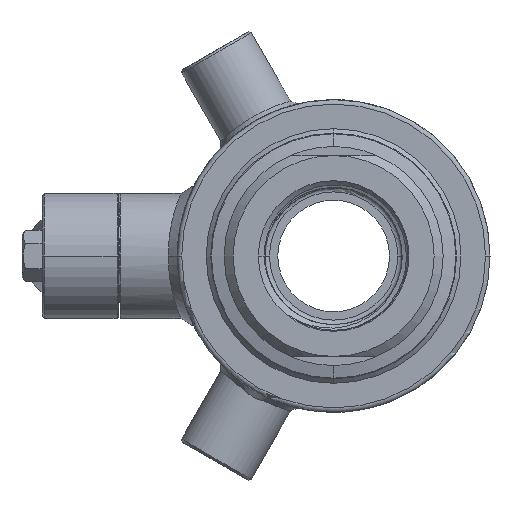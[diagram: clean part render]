
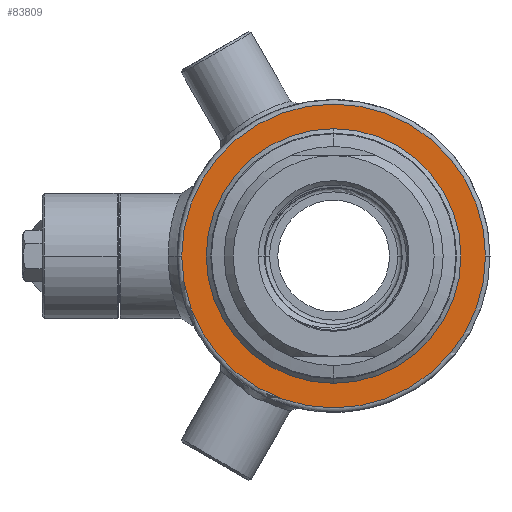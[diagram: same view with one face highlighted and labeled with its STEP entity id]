
A CAD part, left-side view. The second image highlights one B-rep face of the part: STEP entity #83809.
In plain terms, the highlighted planar face has unit normal (-1, 0, 0).
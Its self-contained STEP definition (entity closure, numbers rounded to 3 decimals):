
#36296=CARTESIAN_POINT('',(-21.,0.,0.));
#36297=DIRECTION('',(-1.,0.,0.));
#36298=DIRECTION('',(0.,-1.,0.));
#36299=AXIS2_PLACEMENT_3D('',#36296,#36297,#36298);
#36304=CARTESIAN_POINT('',(-21.,0.,0.));
#36305=DIRECTION('',(-1.,0.,0.));
#36306=DIRECTION('',(0.,1.,0.));
#36307=AXIS2_PLACEMENT_3D('',#36304,#36305,#36306);
#36312=CARTESIAN_POINT('',(-21.,0.,0.));
#36313=DIRECTION('',(1.,0.,0.));
#36314=DIRECTION('',(0.,0.,1.));
#36315=AXIS2_PLACEMENT_3D('',#36312,#36313,#36314);
#36320=CARTESIAN_POINT('',(-21.,0.,0.));
#36321=DIRECTION('',(1.,0.,0.));
#36322=DIRECTION('',(0.,0.,-1.));
#36323=AXIS2_PLACEMENT_3D('',#36320,#36321,#36322);
#50718=CARTESIAN_POINT('',(-21.,-34.,0.));
#50719=CARTESIAN_POINT('',(-21.,34.,0.));
#50720=VERTEX_POINT('',#50718);
#50721=VERTEX_POINT('',#50719);
#50862=CARTESIAN_POINT('',(-21.,0.,28.5));
#50863=CARTESIAN_POINT('',(-21.,0.,-28.5));
#50864=VERTEX_POINT('',#50862);
#50865=VERTEX_POINT('',#50863);
#83796=CARTESIAN_POINT('',(-21.,0.,0.));
#83797=DIRECTION('',(-1.,0.,0.));
#83798=DIRECTION('',(0.,1.,0.));
#83799=AXIS2_PLACEMENT_3D('',#83796,#83797,#83798);
#83800=PLANE('',#83799);
#83801=ORIENTED_EDGE('',*,*,#83788,.F.);
#83802=ORIENTED_EDGE('',*,*,#65775,.F.);
#83803=EDGE_LOOP('',(#83801,#83802));
#83804=FACE_OUTER_BOUND('',#83803,.F.);
#83805=ORIENTED_EDGE('',*,*,#52726,.F.);
#83806=ORIENTED_EDGE('',*,*,#52748,.F.);
#83807=EDGE_LOOP('',(#83805,#83806));
#83808=FACE_BOUND('',#83807,.F.);
#36300=CIRCLE('',#36299,34.);
#36308=CIRCLE('',#36307,34.);
#36316=CIRCLE('',#36315,28.5);
#36324=CIRCLE('',#36323,28.5);
#52726=EDGE_CURVE('',#50864,#50865,#36316,.T.);
#52748=EDGE_CURVE('',#50865,#50864,#36324,.T.);
#65775=EDGE_CURVE('',#50721,#50720,#36308,.T.);
#83788=EDGE_CURVE('',#50720,#50721,#36300,.T.);
#83809=ADVANCED_FACE('',(#83804,#83808),#83800,.T.);
